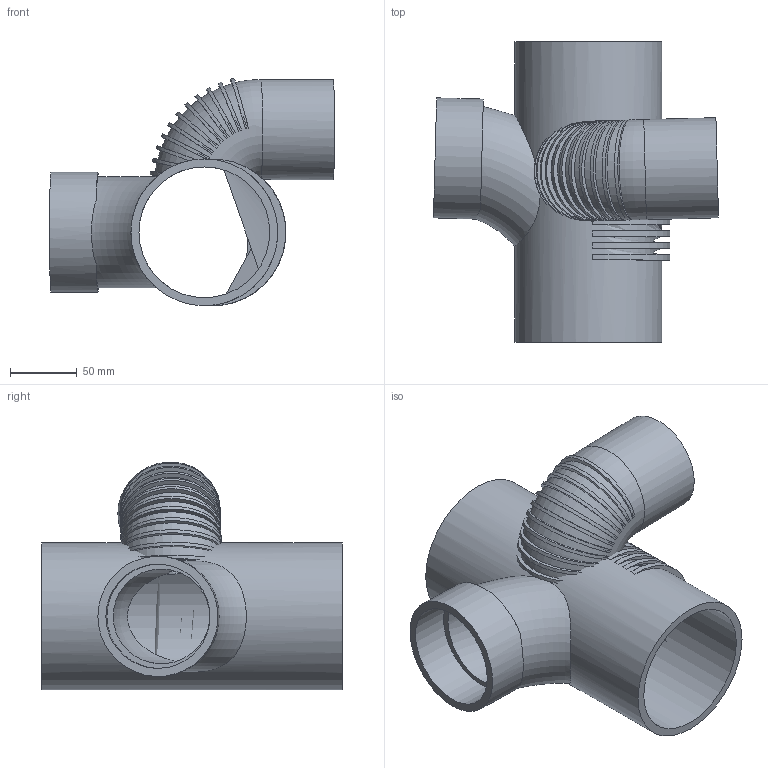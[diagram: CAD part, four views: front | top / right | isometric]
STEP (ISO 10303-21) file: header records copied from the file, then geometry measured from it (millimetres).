
FILE_DESCRIPTION(/* description */ (''),/* implementation_level */ '2;1');
FILE_NAME(/* name */ 'Z:\Geberit\Export\NewStep\310872.stp',/* time_stamp */ '2014-04-01T20:08:51+02:00',/* author */ ('ML'),/* organization */ (''),/* preprocessor_version */ 'ST-DEVELOPER v15.2',/* originating_system */ 'Autodesk Inventor 2014',/* authorisation */ '');
FILE_SCHEMA (('AUTOMOTIVE_DESIGN { 1 0 10303 214 3 1 1 }'));
Length unit declared in the file: millimetre
Products named in the file (1): 310872
Bounding box: 213.46 x 225 x 170.45 mm (x, y, z)
Volume: 624885 mm3; surface area: 251512.6 mm2
Topology: 13 solids, 13 shells, 116 faces, 272 edges, 175 vertices
Faces by surface type: cylinder 59, plane 50, torus 7
Full cylindrical faces by diameter (mm): 67.8 x1, 75 x1, 78 x1, 90 x1, 98 x1, 110 x1
Entity records: 3692 total; most frequent: CARTESIAN_POINT 1110, DIRECTION 514, ORIENTED_EDGE 490, EDGE_CURVE 234, AXIS2_PLACEMENT_3D 230, VERTEX_POINT 159, EDGE_LOOP 150, STYLED_ITEM 118
